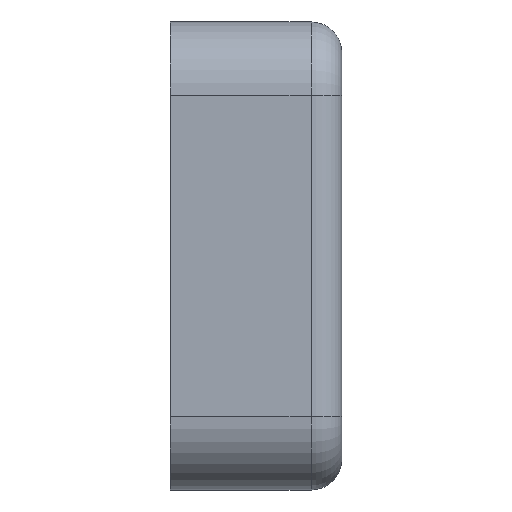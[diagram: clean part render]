
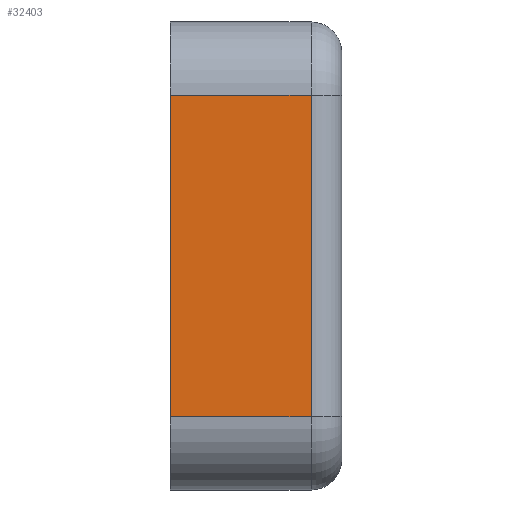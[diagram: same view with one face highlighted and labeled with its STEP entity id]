
A CAD part, left-side view. The second image highlights one B-rep face of the part: STEP entity #32403.
In plain terms, the highlighted planar face has unit normal (-1, 0, 0).
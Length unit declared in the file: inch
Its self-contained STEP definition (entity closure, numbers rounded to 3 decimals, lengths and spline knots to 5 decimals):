
#1288 = LINE ( 'NONE', #16868, #4752 ) ;
#1704 = LINE ( 'NONE', #32986, #20563 ) ;
#1821 = LINE ( 'NONE', #27871, #2591 ) ;
#2316 = DIRECTION ( 'NONE',  ( 0., 0., 1. ) ) ;
#2591 = VECTOR ( 'NONE', #2316, 39.37008 ) ;
#3428 = DIRECTION ( 'NONE',  ( 0., 1., 0. ) ) ;
#3804 = ORIENTED_EDGE ( 'NONE', *, *, #8817, .T. ) ;
#4252 = VERTEX_POINT ( 'NONE', #7293 ) ;
#4448 = VECTOR ( 'NONE', #3428, 39.37008 ) ;
#4752 = VECTOR ( 'NONE', #32398, 39.37008 ) ;
#6103 = CARTESIAN_POINT ( 'NONE',  ( -3.12949, -1.42, 1.31 ) ) ;
#7293 = CARTESIAN_POINT ( 'NONE',  ( -3.12949, -0.02, -1.31 ) ) ;
#7442 = DIRECTION ( 'NONE',  ( 0., 0., -1. ) ) ;
#7958 = CARTESIAN_POINT ( 'NONE',  ( -3.12949, -1.17, -1.31 ) ) ;
#8817 = EDGE_CURVE ( 'NONE', #21230, #9203, #1821, .T. ) ;
#9203 = VERTEX_POINT ( 'NONE', #9354 ) ;
#9216 = ORIENTED_EDGE ( 'NONE', *, *, #27505, .T. ) ;
#9354 = CARTESIAN_POINT ( 'NONE',  ( -3.12949, -1.17, 1.31 ) ) ;
#10087 = EDGE_CURVE ( 'NONE', #21230, #4252, #1288, .T. ) ;
#12478 = FACE_OUTER_BOUND ( 'NONE', #13989, .T. ) ;
#13989 = EDGE_LOOP ( 'NONE', ( #22850, #3804, #9216, #25998 ) ) ;
#15600 = EDGE_CURVE ( 'NONE', #33098, #4252, #1704, .T. ) ;
#16165 = CARTESIAN_POINT ( 'NONE',  ( -3.12949, -0.02, 1.31 ) ) ;
#16479 = CARTESIAN_POINT ( 'NONE',  ( -3.12949, -1.42, 1.31 ) ) ;
#16868 = CARTESIAN_POINT ( 'NONE',  ( -3.12949, -1.42, -1.31 ) ) ;
#20563 = VECTOR ( 'NONE', #7442, 39.37008 ) ;
#21230 = VERTEX_POINT ( 'NONE', #7958 ) ;
#22850 = ORIENTED_EDGE ( 'NONE', *, *, #10087, .F. ) ;
#24228 = PLANE ( 'NONE',  #27727 ) ;
#25353 = DIRECTION ( 'NONE',  ( 0., 0., -1. ) ) ;
#25998 = ORIENTED_EDGE ( 'NONE', *, *, #15600, .T. ) ;
#27505 = EDGE_CURVE ( 'NONE', #9203, #33098, #31838, .T. ) ;
#27727 = AXIS2_PLACEMENT_3D ( 'NONE', #6103, #27880, #25353 ) ;
#27871 = CARTESIAN_POINT ( 'NONE',  ( -3.12949, -1.17, 1.31 ) ) ;
#27880 = DIRECTION ( 'NONE',  ( 1., 0., 0. ) ) ;
#31838 = LINE ( 'NONE', #16479, #4448 ) ;
#32398 = DIRECTION ( 'NONE',  ( 0., 1., 0. ) ) ;
#32403 = ADVANCED_FACE ( 'NONE', ( #12478 ), #24228, .F. ) ;
#32986 = CARTESIAN_POINT ( 'NONE',  ( -3.12949, -0.02, 1.31 ) ) ;
#33098 = VERTEX_POINT ( 'NONE', #16165 ) ;
